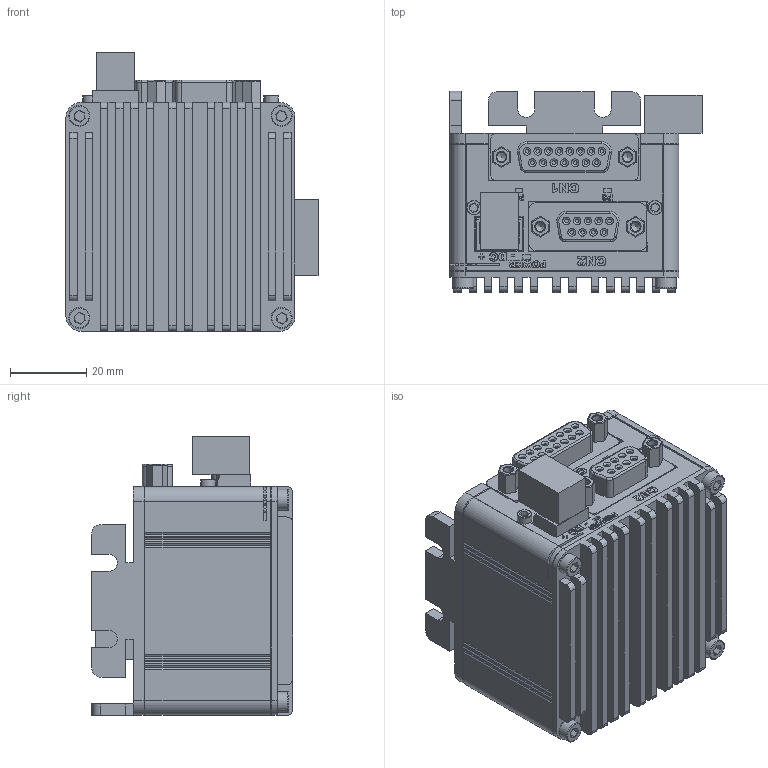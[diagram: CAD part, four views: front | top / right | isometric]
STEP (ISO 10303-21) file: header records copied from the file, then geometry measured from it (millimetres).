
FILE_DESCRIPTION(/* description */ ('Unknown'),/* implementation_level */ '2;1');
FILE_NAME(/* name */ 'CSBL1400',/* time_stamp */ '2021-02-25T15:18:44+08:00',/* author */ ('Unknown'),/* organization */ ('Unknown'),/* preprocessor_version */ 'ST-DEVELOPER v16.7',/* originating_system */ 'DEX',/* authorisation */ $);
FILE_SCHEMA (('AUTOMOTIVE_DESIGN {1 0 10303 214 3 1 1}'));
Length unit declared in the file: millimetre
Products named in the file (1): CSBL1400
Bounding box: 66.05 x 52.7 x 73.05 mm (x, y, z)
Volume: 51052.9 mm3; surface area: 46979.6 mm2
Topology: 2 solids, 3 shells, 1210 faces, 3112 edges, 1978 vertices
Faces by surface type: plane 769, cylinder 314, torus 95, bspline 28, cone 4
Full cylindrical faces by diameter (mm): 1 x39, 2 x2, 2.459 x10, 2.5 x2, 3 x4, 3.5 x4, 3.8 x2, 5.5 x4
Entity records: 45362 total; most frequent: CARTESIAN_POINT 7960, DIRECTION 5891, ORIENTED_EDGE 5850, EDGE_CURVE 2925, LINE 2141, VECTOR 2141, VERTEX_POINT 1925, AXIS2_PLACEMENT_3D 1875
